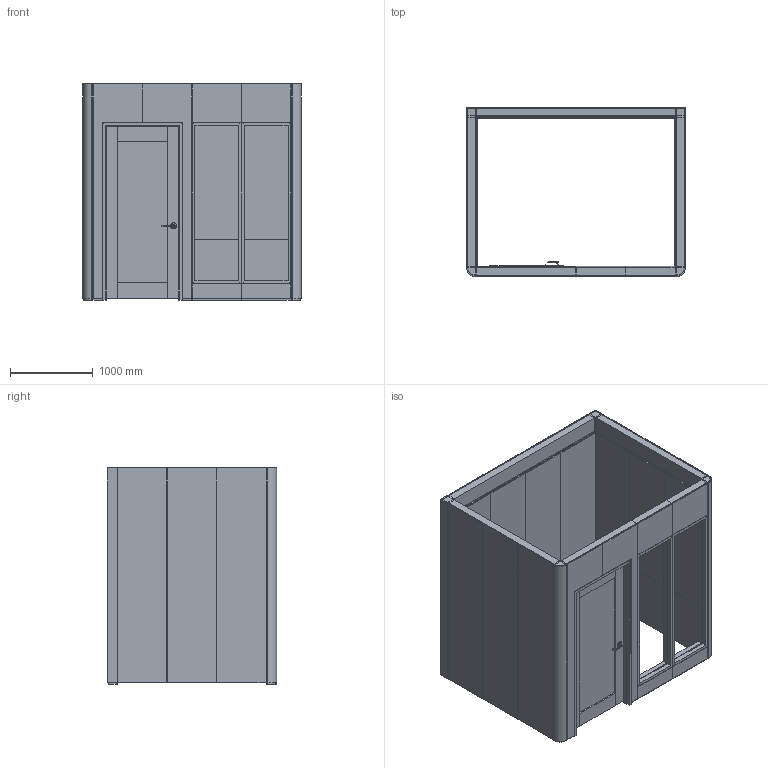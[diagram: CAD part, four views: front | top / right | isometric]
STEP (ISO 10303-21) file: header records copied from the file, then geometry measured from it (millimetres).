
FILE_DESCRIPTION(/* description */ (''),/* implementation_level */ '2;1');
FILE_NAME(/* name */ 'Quiet Three',/* time_stamp */ '2026-06-15T16:21:27+12:00',/* author */ (''),/* organization */ (''),/* preprocessor_version */ 'ST-DEVELOPER v19.2',/* originating_system */ 'Rhino 8.31',/* authorisation */ '');
FILE_SCHEMA (('CONFIG_CONTROL_DESIGN'));
Length unit declared in the file: millimetre
Products named in the file (17): Document; 600x2600mm External Door Lining; 600x740mm Internal Linings Short - Autex; 600x1656mm Internal Linings Short - Autex; 600x740mm Internal Linings - Autex; 600x1656mm Internal Linings - Autex; 18mm Packer; 600x2400mm Internal Linings - MDF; 600x246mm Internal Lining; CornerPost_2600_92; WindowPanel_600_2600_92_600_1950; 600x178mm External Lining; 600x464mm External Lining; 600x178mm Internal Lining; 600x2600mm Internal Door Lining; 600x2600mm External Lining; 92x2600mm External Corner Lining
Bounding box: 2652 x 2054 x 2618 mm (x, y, z)
Volume: 1090134225.5 mm3; surface area: 152298151.8 mm2
Topology: 108 solids, 116 shells, 785 faces, 1730 edges, 1177 vertices
Faces by surface type: plane 755, cylinder 22, bspline 8
Entity records: 15322 total; most frequent: CARTESIAN_POINT 4105, ORIENTED_EDGE 2380, EDGE_CURVE 1224, B_SPLINE_CURVE_WITH_KNOTS 1102, DIRECTION 839, VERTEX_POINT 832, AXIS2_PLACEMENT_3D 688, EDGE_LOOP 553
